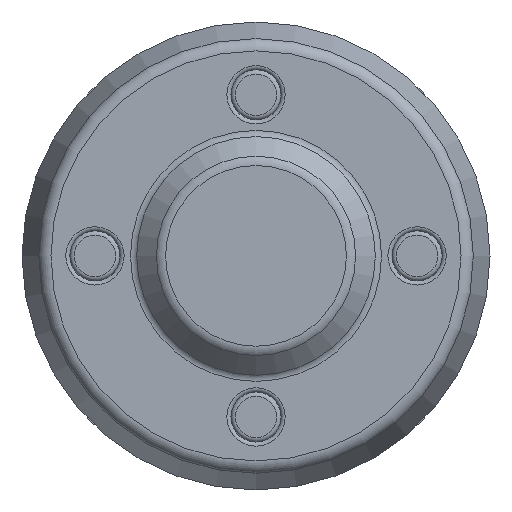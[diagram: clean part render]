
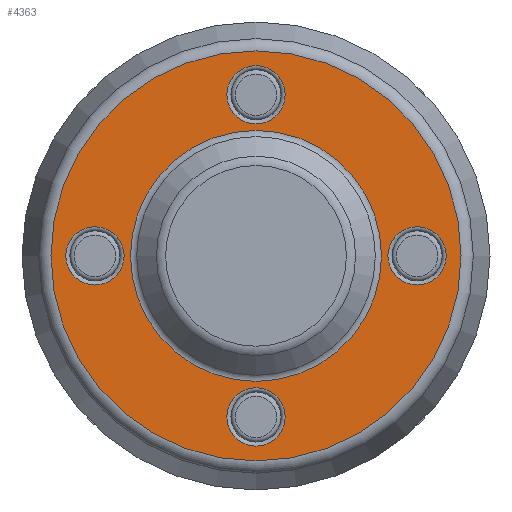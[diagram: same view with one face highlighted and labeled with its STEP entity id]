
A CAD part, top view. The second image highlights one B-rep face of the part: STEP entity #4363.
In plain terms, the highlighted planar face has unit normal (0, 0, 1).
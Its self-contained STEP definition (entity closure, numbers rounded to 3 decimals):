
#4363=ADVANCED_FACE('',(#11658,#11660,#11662,#11664,#11666,#11668),#11670,.T.);
#11658=FACE_BOUND('',#11659,.T.);
#11659=EDGE_LOOP('',(#77335));
#11660=FACE_BOUND('',#11661,.T.);
#11661=EDGE_LOOP('',(#77336));
#11662=FACE_BOUND('',#11663,.T.);
#11663=EDGE_LOOP('',(#77337));
#11664=FACE_BOUND('',#11665,.T.);
#11665=EDGE_LOOP('',(#77338));
#11666=FACE_BOUND('',#11667,.T.);
#11667=EDGE_LOOP('',(#77339));
#11668=FACE_BOUND('',#11669,.T.);
#11669=EDGE_LOOP('',(#77340));
#11670=PLANE('',#11671);
#11671=AXIS2_PLACEMENT_3D('',#11672,#11673,#11674);
#11672=CARTESIAN_POINT('',(0.,0.,-12.));
#11673=DIRECTION('',(0.,0.,1.));
#11674=DIRECTION('',(-1.,0.,0.));
#77335=ORIENTED_EDGE('',*,*,#82153,.F.);
#77336=ORIENTED_EDGE('',*,*,#82154,.F.);
#77337=ORIENTED_EDGE('',*,*,#82155,.F.);
#77338=ORIENTED_EDGE('',*,*,#82156,.T.);
#77339=ORIENTED_EDGE('',*,*,#82157,.F.);
#77340=ORIENTED_EDGE('',*,*,#82158,.F.);
#82153=EDGE_CURVE('',#86494,#86494,#86495,.T.);
#82154=EDGE_CURVE('',#86496,#86496,#86497,.F.);
#82155=EDGE_CURVE('',#86498,#86498,#86499,.F.);
#82156=EDGE_CURVE('',#86500,#86500,#86501,.T.);
#82157=EDGE_CURVE('',#86502,#86502,#86503,.F.);
#82158=EDGE_CURVE('',#86504,#86504,#86505,.F.);
#86494=VERTEX_POINT('',#109653);
#86495=CIRCLE('',#109654,94.199);
#86496=VERTEX_POINT('',#109658);
#86497=CIRCLE('',#109659,13.4);
#86498=VERTEX_POINT('',#109663);
#86499=CIRCLE('',#109664,13.4);
#86500=VERTEX_POINT('',#109668);
#86501=CIRCLE('',#109669,57.657);
#86502=VERTEX_POINT('',#109673);
#86503=CIRCLE('',#109674,13.4);
#86504=VERTEX_POINT('',#109678);
#86505=CIRCLE('',#109679,13.4);
#109653=CARTESIAN_POINT('',(-94.199,0.,-12.));
#109654=AXIS2_PLACEMENT_3D('',#109655,#109656,#109657);
#109655=CARTESIAN_POINT('',(0.,0.,-12.));
#109656=DIRECTION('',(0.,0.,-1.));
#109657=DIRECTION('',(-1.,0.,0.));
#109658=CARTESIAN_POINT('',(0.,87.4,-12.));
#109659=AXIS2_PLACEMENT_3D('',#109660,#109661,#109662);
#109660=CARTESIAN_POINT('',(0.,74.,-12.));
#109661=DIRECTION('',(0.,0.,-1.));
#109662=DIRECTION('',(0.,1.,0.));
#109663=CARTESIAN_POINT('',(0.,-87.4,-12.));
#109664=AXIS2_PLACEMENT_3D('',#109665,#109666,#109667);
#109665=CARTESIAN_POINT('',(0.,-74.,-12.));
#109666=DIRECTION('',(0.,0.,-1.));
#109667=DIRECTION('',(0.,-1.,0.));
#109668=CARTESIAN_POINT('',(-57.657,0.,-12.));
#109669=AXIS2_PLACEMENT_3D('',#109670,#109671,#109672);
#109670=CARTESIAN_POINT('',(0.,0.,-12.));
#109671=DIRECTION('',(0.,0.,-1.));
#109672=DIRECTION('',(-1.,0.,0.));
#109673=CARTESIAN_POINT('',(-87.4,0.,-12.));
#109674=AXIS2_PLACEMENT_3D('',#109675,#109676,#109677);
#109675=CARTESIAN_POINT('',(-74.,0.,-12.));
#109676=DIRECTION('',(0.,0.,-1.));
#109677=DIRECTION('',(-1.,0.,0.));
#109678=CARTESIAN_POINT('',(87.4,0.,-12.));
#109679=AXIS2_PLACEMENT_3D('',#109680,#109681,#109682);
#109680=CARTESIAN_POINT('',(74.,0.,-12.));
#109681=DIRECTION('',(0.,0.,-1.));
#109682=DIRECTION('',(1.,0.,0.));
